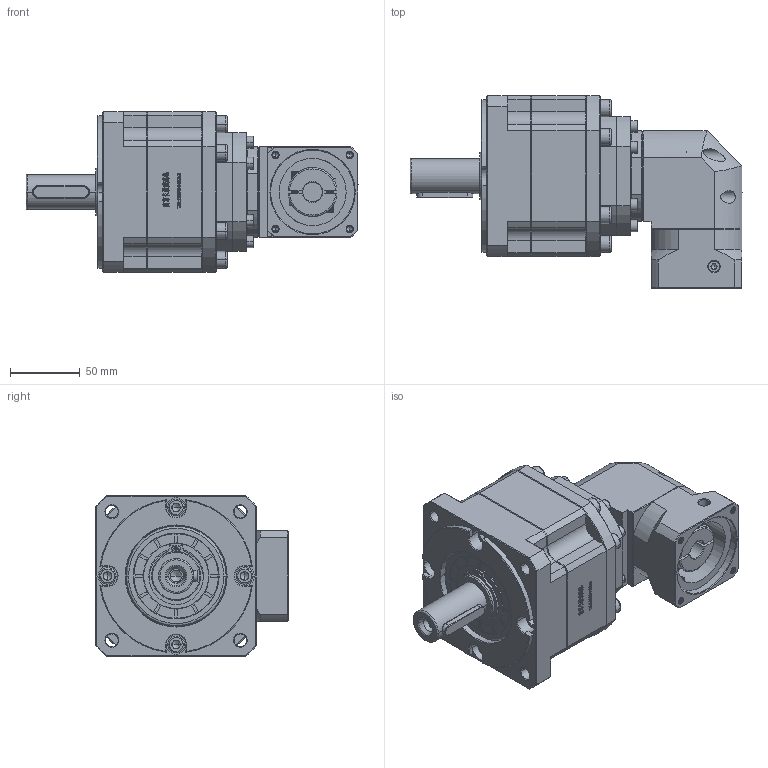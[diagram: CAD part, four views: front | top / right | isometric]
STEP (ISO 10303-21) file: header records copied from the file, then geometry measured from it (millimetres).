
FILE_DESCRIPTION (( 'STEP AP214' ), '1' );
FILE_NAME ('ZB115A-D25-L3-14-60-75-M5.step', '2023-03-03T08:02:31', ( '' ), ( 'Microsoft' ), 'SwSTEP 2.0', 'SolidWorks 2016', '' );
FILE_SCHEMA (( 'AUTOMOTIVE_DESIGN' ));
Length unit declared in the file: millimetre
Products named in the file (1): ZB115A-D25-L3-14-60-75-M5
Bounding box: 237.5 x 137.7 x 115 mm (x, y, z)
Volume: 1565909.1 mm3; surface area: 146282.2 mm2
Topology: 6 solids, 6 shells, 3238 faces, 8628 edges, 5552 vertices
Faces by surface type: plane 1719, bspline 625, cylinder 485, cone 389, torus 20
Entity records: 170455 total; most frequent: CARTESIAN_POINT 58976, ORIENTED_EDGE 17132, DIRECTION 13372, EDGE_CURVE 8566, LINE 5680, VECTOR 5680, VERTEX_POINT 5552, AXIS2_PLACEMENT_3D 3846
